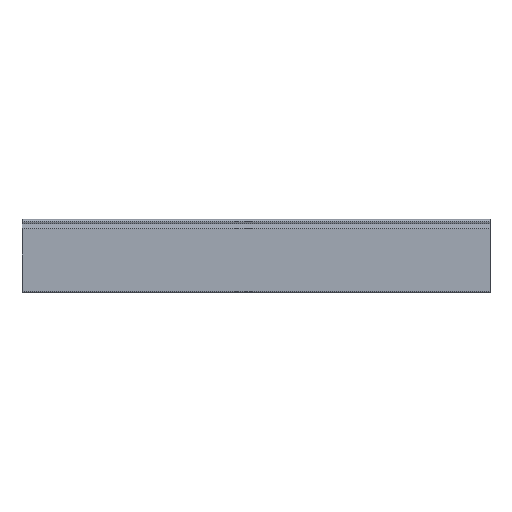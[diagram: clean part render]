
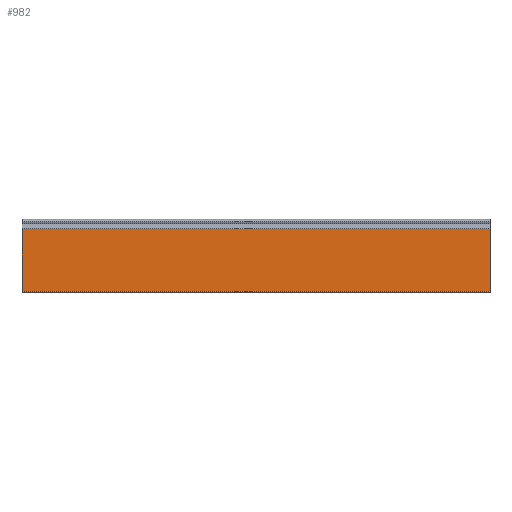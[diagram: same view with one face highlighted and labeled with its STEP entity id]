
A CAD part, top view. The second image highlights one B-rep face of the part: STEP entity #982.
In plain terms, the highlighted planar face has unit normal (0, 0, 1).
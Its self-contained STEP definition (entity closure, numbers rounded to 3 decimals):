
#26 = LINE ( 'NONE', #891, #27 ) ;
#27 = VECTOR ( 'NONE', #892, 1000. ) ;
#70 = VECTOR ( 'NONE', #148, 1000. ) ;
#73 = LINE ( 'NONE', #955, #70 ) ;
#108 = FACE_OUTER_BOUND ( 'NONE', #1293, .T. ) ;
#148 = DIRECTION ( 'NONE',  ( 0., -1., 0. ) ) ;
#195 = CARTESIAN_POINT ( 'NONE',  ( 408., -121.663, 4.05 ) ) ;
#201 = CARTESIAN_POINT ( 'NONE',  ( 408., -12.164, 4.05 ) ) ;
#244 = CARTESIAN_POINT ( 'NONE',  ( -408., -12.164, 4.05 ) ) ;
#247 = CARTESIAN_POINT ( 'NONE',  ( -408., -121.663, 4.05 ) ) ;
#290 = CARTESIAN_POINT ( 'NONE',  ( 408., -12.164, 4.05 ) ) ;
#291 = PLANE ( 'NONE',  #1182 ) ;
#293 = DIRECTION ( 'NONE',  ( 0., 0., -1. ) ) ;
#294 = DIRECTION ( 'NONE',  ( 0., 1., 0. ) ) ;
#392 = CARTESIAN_POINT ( 'NONE',  ( 408., -12.164, 4.05 ) ) ;
#393 = DIRECTION ( 'NONE',  ( -1., 0., 0. ) ) ;
#394 = CARTESIAN_POINT ( 'NONE',  ( 408., -121.663, 4.05 ) ) ;
#395 = DIRECTION ( 'NONE',  ( -1., 0., 0. ) ) ;
#560 = ORIENTED_EDGE ( 'NONE', *, *, #1103, .F. ) ;
#561 = ORIENTED_EDGE ( 'NONE', *, *, #673, .F. ) ;
#562 = ORIENTED_EDGE ( 'NONE', *, *, #1102, .T. ) ;
#673 = EDGE_CURVE ( 'NONE', #740, #734, #26, .T. ) ;
#703 = EDGE_CURVE ( 'NONE', #783, #786, #73, .T. ) ;
#734 = VERTEX_POINT ( 'NONE', #195 ) ;
#740 = VERTEX_POINT ( 'NONE', #201 ) ;
#783 = VERTEX_POINT ( 'NONE', #244 ) ;
#786 = VERTEX_POINT ( 'NONE', #247 ) ;
#891 = CARTESIAN_POINT ( 'NONE',  ( 408., -12.164, 4.05 ) ) ;
#892 = DIRECTION ( 'NONE',  ( 0., -1., 0. ) ) ;
#955 = CARTESIAN_POINT ( 'NONE',  ( -408., -12.164, 4.05 ) ) ;
#982 = ADVANCED_FACE ( 'NONE', ( #108 ), #291, .F. ) ;
#1030 = LINE ( 'NONE', #392, #1031 ) ;
#1031 = VECTOR ( 'NONE', #393, 1000. ) ;
#1032 = LINE ( 'NONE', #394, #1033 ) ;
#1033 = VECTOR ( 'NONE', #395, 1000. ) ;
#1102 = EDGE_CURVE ( 'NONE', #740, #783, #1030, .T. ) ;
#1103 = EDGE_CURVE ( 'NONE', #734, #786, #1032, .T. ) ;
#1182 = AXIS2_PLACEMENT_3D ( 'NONE', #290, #293, #294 ) ;
#1293 = EDGE_LOOP ( 'NONE', ( #1300, #560, #561, #562 ) ) ;
#1300 = ORIENTED_EDGE ( 'NONE', *, *, #703, .T. ) ;
